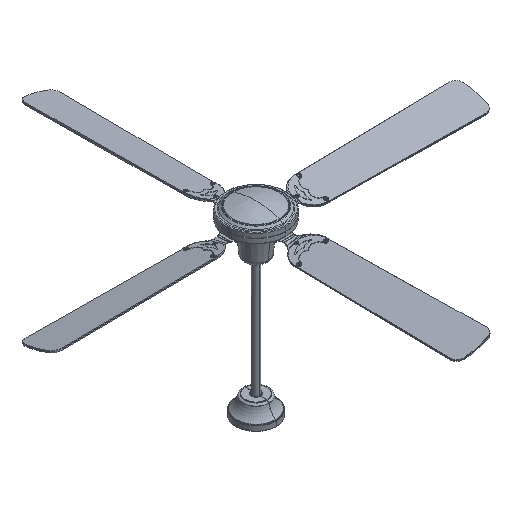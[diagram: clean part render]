
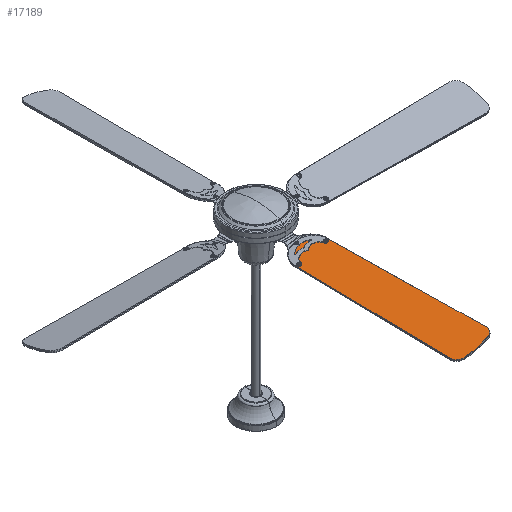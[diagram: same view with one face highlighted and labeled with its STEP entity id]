
A CAD part, isometric view. The second image highlights one B-rep face of the part: STEP entity #17189.
In plain terms, the highlighted planar face has unit normal (-0.249, 0, 0.969).
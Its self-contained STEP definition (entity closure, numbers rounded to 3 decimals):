
#534=FACE_BOUND('',#2684,.T.);
#535=FACE_BOUND('',#2685,.T.);
#536=FACE_BOUND('',#2686,.T.);
#807=PLANE('',#18606);
#1595=FACE_OUTER_BOUND('',#2683,.T.);
#2683=EDGE_LOOP('',(#14200,#14201,#14202,#14203,#14204,#14205));
#2684=EDGE_LOOP('',(#14206,#14207));
#2685=EDGE_LOOP('',(#14208,#14209));
#2686=EDGE_LOOP('',(#14210,#14211));
#4317=CIRCLE('',#18607,52.5);
#4318=CIRCLE('',#18608,25.);
#4319=CIRCLE('',#18609,220.);
#4320=CIRCLE('',#18610,25.);
#4321=CIRCLE('',#18611,2.6);
#4322=CIRCLE('',#18612,2.6);
#4323=CIRCLE('',#18613,2.6);
#4324=CIRCLE('',#18614,2.6);
#4325=CIRCLE('',#18615,2.6);
#4326=CIRCLE('',#18616,2.6);
#5227=LINE('',#35065,#6292);
#5228=LINE('',#35069,#6293);
#6292=VECTOR('',#21919,304.8);
#6293=VECTOR('',#21922,304.8);
#7793=VERTEX_POINT('',#35063);
#7794=VERTEX_POINT('',#35064);
#7795=VERTEX_POINT('',#35066);
#7796=VERTEX_POINT('',#35068);
#7797=VERTEX_POINT('',#35070);
#7798=VERTEX_POINT('',#35072);
#7799=VERTEX_POINT('',#35075);
#7800=VERTEX_POINT('',#35076);
#7801=VERTEX_POINT('',#35079);
#7802=VERTEX_POINT('',#35080);
#7803=VERTEX_POINT('',#35083);
#7804=VERTEX_POINT('',#35084);
#10074=EDGE_CURVE('',#7793,#7794,#5227,.T.);
#10075=EDGE_CURVE('',#7795,#7793,#4317,.T.);
#10076=EDGE_CURVE('',#7796,#7795,#5228,.T.);
#10077=EDGE_CURVE('',#7797,#7796,#4318,.T.);
#10078=EDGE_CURVE('',#7798,#7797,#4319,.T.);
#10079=EDGE_CURVE('',#7794,#7798,#4320,.T.);
#10080=EDGE_CURVE('',#7799,#7800,#4321,.T.);
#10081=EDGE_CURVE('',#7800,#7799,#4322,.T.);
#10082=EDGE_CURVE('',#7801,#7802,#4323,.T.);
#10083=EDGE_CURVE('',#7802,#7801,#4324,.T.);
#10084=EDGE_CURVE('',#7803,#7804,#4325,.T.);
#10085=EDGE_CURVE('',#7804,#7803,#4326,.T.);
#14200=ORIENTED_EDGE('',*,*,#10074,.F.);
#14201=ORIENTED_EDGE('',*,*,#10075,.F.);
#14202=ORIENTED_EDGE('',*,*,#10076,.F.);
#14203=ORIENTED_EDGE('',*,*,#10077,.F.);
#14204=ORIENTED_EDGE('',*,*,#10078,.F.);
#14205=ORIENTED_EDGE('',*,*,#10079,.F.);
#14206=ORIENTED_EDGE('',*,*,#10080,.F.);
#14207=ORIENTED_EDGE('',*,*,#10081,.F.);
#14208=ORIENTED_EDGE('',*,*,#10082,.F.);
#14209=ORIENTED_EDGE('',*,*,#10083,.F.);
#14210=ORIENTED_EDGE('',*,*,#10084,.F.);
#14211=ORIENTED_EDGE('',*,*,#10085,.F.);
#17189=ADVANCED_FACE('',(#1595,#534,#535,#536),#807,.T.);
#18606=AXIS2_PLACEMENT_3D('',#35062,#21917,#21918);
#18607=AXIS2_PLACEMENT_3D('',#35067,#21920,#21921);
#18608=AXIS2_PLACEMENT_3D('',#35071,#21923,#21924);
#18609=AXIS2_PLACEMENT_3D('',#35073,#21925,#21926);
#18610=AXIS2_PLACEMENT_3D('',#35074,#21927,#21928);
#18611=AXIS2_PLACEMENT_3D('',#35077,#21929,#21930);
#18612=AXIS2_PLACEMENT_3D('',#35078,#21931,#21932);
#18613=AXIS2_PLACEMENT_3D('',#35081,#21933,#21934);
#18614=AXIS2_PLACEMENT_3D('',#35082,#21935,#21936);
#18615=AXIS2_PLACEMENT_3D('',#35085,#21937,#21938);
#18616=AXIS2_PLACEMENT_3D('',#35086,#21939,#21940);
#21917=DIRECTION('center_axis',(-0.249,0.,
0.969));
#21918=DIRECTION('ref_axis',(0.969,0.,0.249));
#21919=DIRECTION('',(0.014,-1.,0.004));
#21920=DIRECTION('center_axis',(0.249,0.,
-0.969));
#21921=DIRECTION('ref_axis',(0.,-1.,0.));
#21922=DIRECTION('',(0.014,1.,0.004));
#21923=DIRECTION('center_axis',(0.249,0.,
-0.969));
#21924=DIRECTION('ref_axis',(0.,-1.,0.));
#21925=DIRECTION('center_axis',(0.249,0.,
-0.969));
#21926=DIRECTION('ref_axis',(0.,-1.,0.));
#21927=DIRECTION('center_axis',(0.249,0.,
-0.969));
#21928=DIRECTION('ref_axis',(0.,-1.,0.));
#21929=DIRECTION('center_axis',(-0.249,0.,
0.969));
#21930=DIRECTION('ref_axis',(0.,-1.,0.));
#21931=DIRECTION('center_axis',(-0.249,0.,
0.969));
#21932=DIRECTION('ref_axis',(0.,-1.,0.));
#21933=DIRECTION('center_axis',(-0.249,0.,
0.969));
#21934=DIRECTION('ref_axis',(0.,-1.,0.));
#21935=DIRECTION('center_axis',(-0.249,0.,
0.969));
#21936=DIRECTION('ref_axis',(0.,-1.,0.));
#21937=DIRECTION('center_axis',(-0.249,0.,
0.969));
#21938=DIRECTION('ref_axis',(0.,-1.,0.));
#21939=DIRECTION('center_axis',(-0.249,0.,
0.969));
#21940=DIRECTION('ref_axis',(0.,-1.,0.));
#35062=CARTESIAN_POINT('Origin',(88.841,-749.854,568.002));
#35063=CARTESIAN_POINT('',(51.197,-175.884,558.325));
#35064=CARTESIAN_POINT('',(58.464,-685.622,560.193));
#35065=CARTESIAN_POINT('',(51.197,-175.884,558.325));
#35066=CARTESIAN_POINT('',(-50.485,-175.884,532.184));
#35067=CARTESIAN_POINT('Origin',(0.356,-176.657,545.255));
#35068=CARTESIAN_POINT('',(-57.752,-685.622,530.316));
#35069=CARTESIAN_POINT('',(-57.752,-685.622,530.316));
#35070=CARTESIAN_POINT('',(-37.887,-710.584,535.423));
#35071=CARTESIAN_POINT('Origin',(-33.542,-685.99,536.54));
#35072=CARTESIAN_POINT('',(38.6,-710.584,555.086));
#35073=CARTESIAN_POINT('Origin',(0.356,-494.157,545.255));
#35074=CARTESIAN_POINT('Origin',(34.254,-685.99,553.969));
#35075=CARTESIAN_POINT('',(-41.774,-179.395,534.424));
#35076=CARTESIAN_POINT('',(-41.774,-184.595,534.424));
#35077=CARTESIAN_POINT('Origin',(-41.774,-181.995,534.424));
#35078=CARTESIAN_POINT('Origin',(-41.774,-181.995,534.424));
#35079=CARTESIAN_POINT('',(0.356,-129.557,545.255));
#35080=CARTESIAN_POINT('',(0.356,-134.757,545.255));
#35081=CARTESIAN_POINT('Origin',(0.356,-132.157,545.255));
#35082=CARTESIAN_POINT('Origin',(0.356,-132.157,545.255));
#35083=CARTESIAN_POINT('',(42.486,-179.395,556.085));
#35084=CARTESIAN_POINT('',(42.486,-184.595,556.085));
#35085=CARTESIAN_POINT('Origin',(42.486,-181.995,556.085));
#35086=CARTESIAN_POINT('Origin',(42.486,-181.995,556.085));
